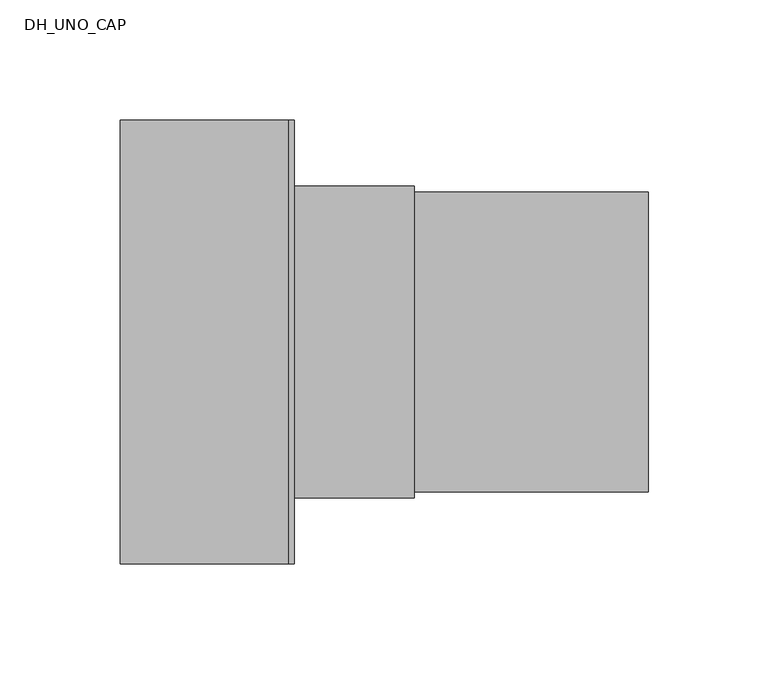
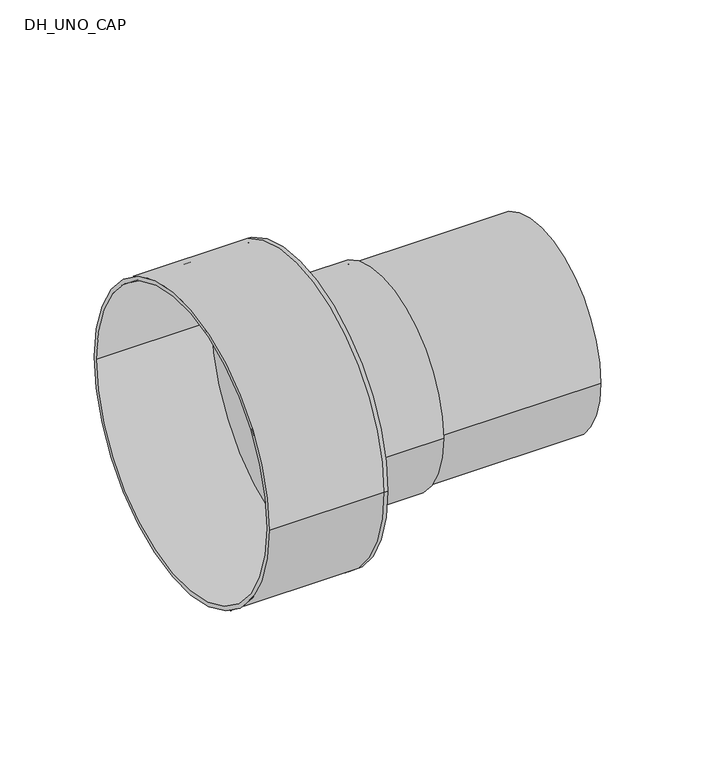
"""IFC4 building model written with IfcOpenShell, lengths in millimetres: pipe fitting geometry, DH_UNO_CAP : INSULPEX UNO 11 Heating - Rubber Cap."""

from ifc_helpers import new_model, si_unit, point, frame, origin, origin_2d, place, context, project, spatial, polyline, circle_curve, trimmed, segment, composite_curve, outline, extrude, source, transform, mapped, element, save
from ifc_brep_helpers import plane_surface, cylinder_surface, revolved_surface, advanced_brep


def dh_uno_cap_a6355fbc(model_context):
    return source(origin(), model_context, "Body", "SolidModel", [
        extrude(outline(composite_curve([segment(trimmed(circle_curve(origin_2d(), 62.5), [point((-62.5, 0.0))], [point((62.5, 0.0))], False, "CARTESIAN"), True, "CONTINUOUS"), segment(trimmed(circle_curve(origin_2d(), 62.5), [point((62.5, 0.0))], [point((-62.5, 0.0))], False, "CARTESIAN"), True, "CONTINUOUS")], self_intersect=False), holes=[composite_curve([segment(trimmed(circle_curve(origin_2d(), 51.1), [point((-51.1, 0.0))], [point((51.1, 0.0))], True, "CARTESIAN"), True, "CONTINUOUS"), segment(trimmed(circle_curve(origin_2d(), 51.1), [point((51.1, 0.0))], [point((-51.1, 0.0))], True, "CARTESIAN"), True, "CONTINUOUS")], self_intersect=False)]), frame((0.0, 0.0, 0.0), z_axis=(1.0, 0.0, 0.0), x_axis=(0.0, 1.0, 0.0)), (0.0, 0.0, 1.0), 150.0),
        advanced_brep(
        [(-70.0, -92.5, 0.0), (-70.0, 92.5, 0.0), (-70.0, -90.0, 0.0), (-70.0, 90.0, 0.0), (0.0, -90.0, 0.0), (0.0, 90.0, 0.0), (0.0, -92.5, 0.0), (0.0, 92.5, 0.0), (0.0, 62.5, 0.0), (0.0, -62.5, 0.0), (2.5, -92.5, 0.0), (2.5, 92.5, 0.0), (2.5, -62.5, 0.0), (2.5, 62.5, 0.0)],
        [
            (0, 1, circle_curve(frame((-70.0, 0.0, 0.0), z_axis=(-1.0, 0.0, 0.0), x_axis=(0.0, 1.0, 0.0)), 92.5)),
            (1, 0, circle_curve(frame((-70.0, 0.0, 0.0), z_axis=(-1.0, 0.0, 0.0), x_axis=(0.0, 1.0, 0.0)), 92.5)),
            (2, 3, circle_curve(frame((-70.0, 0.0, 0.0), z_axis=(1.0, 0.0, 0.0), x_axis=(0.0, 1.0, 0.0)), 90.0)),
            (3, 2, circle_curve(frame((-70.0, 0.0, 0.0), z_axis=(1.0, 0.0, 0.0), x_axis=(0.0, 1.0, 0.0)), 90.0)),
            (2, 4),
            (4, 5, circle_curve(frame((0.0, 0.0, 0.0), z_axis=(1.0, 0.0, 0.0), x_axis=(0.0, 1.0, 0.0)), 90.0)),
            (5, 3),
            (5, 4, circle_curve(frame((0.0, 0.0, 0.0), z_axis=(1.0, 0.0, 0.0), x_axis=(0.0, 1.0, 0.0)), 90.0)),
            (0, 6),
            (6, 7, circle_curve(frame((0.0, 0.0, 0.0), z_axis=(-1.0, 0.0, 0.0), x_axis=(0.0, 1.0, 0.0)), 92.5)),
            (7, 1),
            (7, 6, circle_curve(frame((0.0, 0.0, 0.0), z_axis=(-1.0, 0.0, 0.0), x_axis=(0.0, 1.0, 0.0)), 92.5)),
            (8, 9, circle_curve(frame((0.0, 0.0, 0.0), z_axis=(1.0, 0.0, 0.0), x_axis=(0.0, 1.0, 0.0)), 62.5)),
            (9, 8, circle_curve(frame((0.0, 0.0, 0.0), z_axis=(1.0, 0.0, 0.0), x_axis=(0.0, 1.0, 0.0)), 62.5)),
            (10, 11, circle_curve(frame((2.5, 0.0, 0.0), z_axis=(1.0, 0.0, 0.0), x_axis=(0.0, 1.0, 0.0)), 92.5)),
            (11, 10, circle_curve(frame((2.5, 0.0, 0.0), z_axis=(1.0, 0.0, 0.0), x_axis=(0.0, 1.0, 0.0)), 92.5)),
            (12, 13, circle_curve(frame((2.5, 0.0, 0.0), z_axis=(-1.0, 0.0, 0.0), x_axis=(0.0, 1.0, 0.0)), 62.5)),
            (13, 12, circle_curve(frame((2.5, 0.0, 0.0), z_axis=(-1.0, 0.0, 0.0), x_axis=(0.0, 1.0, 0.0)), 62.5)),
            (11, 7),
            (6, 10),
            (8, 13),
            (12, 9),
        ],
        [
            plane_surface(frame((-70.0, 0.0, 0.0), z_axis=(-1.0, 0.0, 0.0), x_axis=(0.0, 0.0, 1.0))),
            revolved_surface(polyline([(0.0, 90.0, 0.0), (-70.0, 90.0, 0.0)]), (-70.0, 0.0, 0.0), (1.0, 0.0, 0.0)),
            cylinder_surface(frame((-70.0, 0.0, 0.0), z_axis=(-1.0, 0.0, 0.0), x_axis=(0.0, 1.0, 0.0)), 92.5),
            plane_surface(frame((0.0, 0.0, 0.0), z_axis=(-1.0, 0.0, 0.0), x_axis=(0.0, 0.0, 1.0))),
            plane_surface(frame((2.5, 0.0, 0.0), z_axis=(1.0, 0.0, 0.0), x_axis=(0.0, 0.0, 1.0))),
            cylinder_surface(frame((0.0, 0.0, 0.0), z_axis=(-1.0, 0.0, 0.0), x_axis=(0.0, 1.0, 0.0)), 92.5),
            revolved_surface(polyline([(0.0, 62.5, 0.0), (2.5, 62.5, 0.0)]), (0.0, 0.0, 0.0), (-1.0, 0.0, 0.0)),
        ],
        [
            (0, [[1, 2], [3, 4]]),
            (1, [[-3, 5, 6, 7]]),
            (1, [[-4, -7, 8, -5]]),
            (2, [[-1, 9, 10, 11]]),
            (2, [[-2, -11, 12, -9]]),
            (3, [[-6, -8], [13, 14]]),
            (4, [[15, 16], [17, 18]]),
            (5, [[-16, 19, -10, 20]]),
            (5, [[-15, -20, -12, -19]]),
            (6, [[21, -17, 22, -13]]),
            (6, [[-21, -14, -22, -18]]),
        ],
    ),
        extrude(outline(composite_curve([segment(trimmed(circle_curve(origin_2d(), 65.0), [point((-65.0, 0.0))], [point((65.0, 0.0))], False, "CARTESIAN"), True, "CONTINUOUS"), segment(trimmed(circle_curve(origin_2d(), 65.0), [point((65.0, 0.0))], [point((-65.0, 0.0))], False, "CARTESIAN"), True, "CONTINUOUS")], self_intersect=False), holes=[composite_curve([segment(trimmed(circle_curve(origin_2d(), 62.5), [point((-62.5, 0.0))], [point((62.5, 0.0))], True, "CARTESIAN"), True, "CONTINUOUS"), segment(trimmed(circle_curve(origin_2d(), 62.5), [point((62.5, 0.0))], [point((-62.5, 0.0))], True, "CARTESIAN"), True, "CONTINUOUS")], self_intersect=False)]), frame((2.5, 0.0, 0.0), z_axis=(1.0, 0.0, 0.0), x_axis=(0.0, 1.0, 0.0)), (0.0, 0.0, 1.0), 50.0),
    ])


if __name__ == "__main__":
    model = new_model("IFC4")
    model_context = context("Model", 3, world=origin())
    ifc_project = project(units=[si_unit("LENGTHUNIT", "METRE", prefix="MILLI")], contexts=[model_context])
    site = spatial("IfcSite", under=ifc_project)
    building = spatial("IfcBuilding", under=site)
    placement = place(None, origin())
    dh_uno_cap_shape = dh_uno_cap_a6355fbc(model_context)
    element("IfcPipeFitting", 1, ObjectType="DH_UNO_CAP : INSULPEX UNO 11 Heating - Rubber Cap", at=placement, inside=building, context=model_context, shape_type="MappedRepresentation", body=[
        mapped(dh_uno_cap_shape, transform((0.0, 0.0, 0.0), x_axis=(1.0, 0.0, 0.0), y_axis=(0.0, 1.0, 0.0), z_axis=(0.0, 0.0, 1.0))),
    ])
    save(model, "model.ifc")
